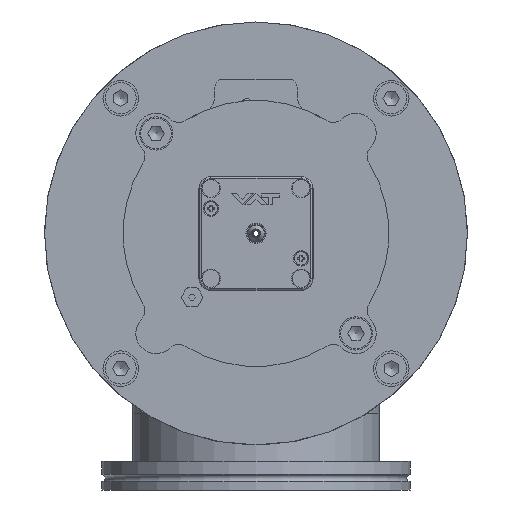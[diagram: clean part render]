
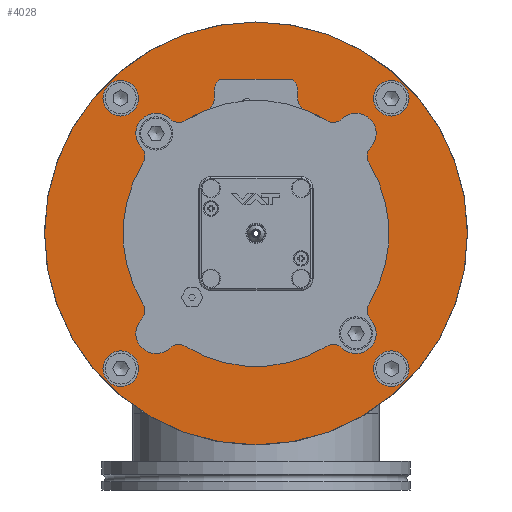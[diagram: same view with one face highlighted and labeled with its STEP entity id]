
A CAD part, left-side view. The second image highlights one B-rep face of the part: STEP entity #4028.
In plain terms, the highlighted planar face has unit normal (-1, 0, 0).
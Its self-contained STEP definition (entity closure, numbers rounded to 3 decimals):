
#4028=ADVANCED_FACE('BCT_REF_156008',(#5625,#5626,#5627,#5628,#5629,#5630,
#5631,#5632,#5633,#5634),#4521,.F.);
#4521=PLANE('',#14511);
#5039=CIRCLE('',#14486,89.);
#5049=CIRCLE('',#14502,3.4);
#5050=CIRCLE('',#14503,3.4);
#5051=CIRCLE('',#14504,3.4);
#5052=CIRCLE('',#14505,3.4);
#5053=CIRCLE('',#14506,7.5);
#5054=CIRCLE('',#14507,7.5);
#5055=CIRCLE('',#14508,7.5);
#5056=CIRCLE('',#14509,7.5);
#5057=CIRCLE('',#14510,55.145);
#5625=FACE_BOUND('',#6346,.T.);
#5626=FACE_BOUND('',#6347,.T.);
#5627=FACE_BOUND('',#6348,.T.);
#5628=FACE_BOUND('',#6349,.T.);
#5629=FACE_BOUND('',#6350,.T.);
#5630=FACE_BOUND('',#6351,.T.);
#5631=FACE_BOUND('',#6352,.T.);
#5632=FACE_BOUND('',#6353,.T.);
#5633=FACE_BOUND('',#6354,.T.);
#5634=FACE_BOUND('',#6355,.T.);
#6346=EDGE_LOOP('',(#8180));
#6347=EDGE_LOOP('',(#8181));
#6348=EDGE_LOOP('',(#8182));
#6349=EDGE_LOOP('',(#8183));
#6350=EDGE_LOOP('',(#8184));
#6351=EDGE_LOOP('',(#8185));
#6352=EDGE_LOOP('',(#8186));
#6353=EDGE_LOOP('',(#8187));
#6354=EDGE_LOOP('',(#8188));
#6355=EDGE_LOOP('',(#8189));
#8180=ORIENTED_EDGE('',*,*,#11577,.T.);
#8181=ORIENTED_EDGE('',*,*,#11578,.T.);
#8182=ORIENTED_EDGE('',*,*,#11579,.T.);
#8183=ORIENTED_EDGE('',*,*,#11580,.T.);
#8184=ORIENTED_EDGE('',*,*,#11581,.T.);
#8185=ORIENTED_EDGE('',*,*,#11582,.T.);
#8186=ORIENTED_EDGE('',*,*,#11583,.T.);
#8187=ORIENTED_EDGE('',*,*,#11584,.T.);
#8188=ORIENTED_EDGE('',*,*,#11585,.T.);
#8189=ORIENTED_EDGE('',*,*,#11557,.T.);
#10304=VERTEX_POINT('',#21752);
#10319=VERTEX_POINT('',#21805);
#10320=VERTEX_POINT('',#21807);
#10321=VERTEX_POINT('',#21809);
#10322=VERTEX_POINT('',#21811);
#10323=VERTEX_POINT('',#21813);
#10324=VERTEX_POINT('',#21815);
#10325=VERTEX_POINT('',#21817);
#10326=VERTEX_POINT('',#21819);
#10327=VERTEX_POINT('',#21821);
#11557=EDGE_CURVE('',#10304,#10304,#5039,.T.);
#11577=EDGE_CURVE('',#10319,#10319,#5049,.T.);
#11578=EDGE_CURVE('',#10320,#10320,#5050,.T.);
#11579=EDGE_CURVE('',#10321,#10321,#5051,.T.);
#11580=EDGE_CURVE('',#10322,#10322,#5052,.T.);
#11581=EDGE_CURVE('BCT_REF_155885',#10323,#10323,#5053,.T.);
#11582=EDGE_CURVE('',#10324,#10324,#5054,.T.);
#11583=EDGE_CURVE('',#10325,#10325,#5055,.T.);
#11584=EDGE_CURVE('',#10326,#10326,#5056,.T.);
#11585=EDGE_CURVE('BCT_REF_156011',#10327,#10327,#5057,.T.);
#14486=AXIS2_PLACEMENT_3D('',#21751,#16571,#16572);
#14502=AXIS2_PLACEMENT_3D('',#21804,#16611,#16612);
#14503=AXIS2_PLACEMENT_3D('',#21806,#16613,#16614);
#14504=AXIS2_PLACEMENT_3D('',#21808,#16615,#16616);
#14505=AXIS2_PLACEMENT_3D('',#21810,#16617,#16618);
#14506=AXIS2_PLACEMENT_3D('',#21812,#16619,#16620);
#14507=AXIS2_PLACEMENT_3D('',#21814,#16621,#16622);
#14508=AXIS2_PLACEMENT_3D('',#21816,#16623,#16624);
#14509=AXIS2_PLACEMENT_3D('',#21818,#16625,#16626);
#14510=AXIS2_PLACEMENT_3D('',#21820,#16627,#16628);
#14511=AXIS2_PLACEMENT_3D('',#21822,#16629,#16630);
#16571=DIRECTION('',(-1.,0.,0.));
#16572=DIRECTION('',(0.,0.,1.));
#16611=DIRECTION('',(1.,0.,0.));
#16612=DIRECTION('',(0.,-1.,0.));
#16613=DIRECTION('',(1.,0.,0.));
#16614=DIRECTION('',(0.,0.,1.));
#16615=DIRECTION('',(1.,0.,0.));
#16616=DIRECTION('',(0.,1.,0.));
#16617=DIRECTION('',(1.,0.,0.));
#16618=DIRECTION('',(0.,0.,-1.));
#16619=DIRECTION('',(1.,0.,0.));
#16620=DIRECTION('',(0.,-1.,0.));
#16621=DIRECTION('',(1.,0.,0.));
#16622=DIRECTION('',(0.,0.,1.));
#16623=DIRECTION('',(1.,0.,0.));
#16624=DIRECTION('',(0.,1.,0.));
#16625=DIRECTION('',(1.,0.,0.));
#16626=DIRECTION('',(0.,0.,-1.));
#16627=DIRECTION('',(1.,0.,0.));
#16628=DIRECTION('',(0.,0.,-1.));
#16629=DIRECTION('',(1.,0.,0.));
#16630=DIRECTION('',(0.,0.,-1.));
#21751=CARTESIAN_POINT('',(0.,0.,0.));
#21752=CARTESIAN_POINT('',(0.,0.,89.));
#21804=CARTESIAN_POINT('',(0.,-42.073,-42.073));
#21805=CARTESIAN_POINT('',(0.,-45.473,-42.073));
#21806=CARTESIAN_POINT('',(0.,-42.073,42.073));
#21807=CARTESIAN_POINT('',(0.,-42.073,45.473));
#21808=CARTESIAN_POINT('',(0.,42.073,42.073));
#21809=CARTESIAN_POINT('',(0.,45.473,42.073));
#21810=CARTESIAN_POINT('',(0.,42.073,-42.073));
#21811=CARTESIAN_POINT('',(0.,42.073,-45.473));
#21812=CARTESIAN_POINT('',(0.,56.922,-56.922));
#21813=CARTESIAN_POINT('',(0.,49.422,-56.922));
#21814=CARTESIAN_POINT('',(0.,-56.922,-56.922));
#21815=CARTESIAN_POINT('',(0.,-56.922,-49.422));
#21816=CARTESIAN_POINT('',(0.,-56.922,56.922));
#21817=CARTESIAN_POINT('',(0.,-49.422,56.922));
#21818=CARTESIAN_POINT('',(0.,56.922,56.922));
#21819=CARTESIAN_POINT('',(0.,56.922,49.422));
#21820=CARTESIAN_POINT('',(0.,0.,0.));
#21821=CARTESIAN_POINT('',(0.,0.,-55.145));
#21822=CARTESIAN_POINT('',(0.,89.,0.));
